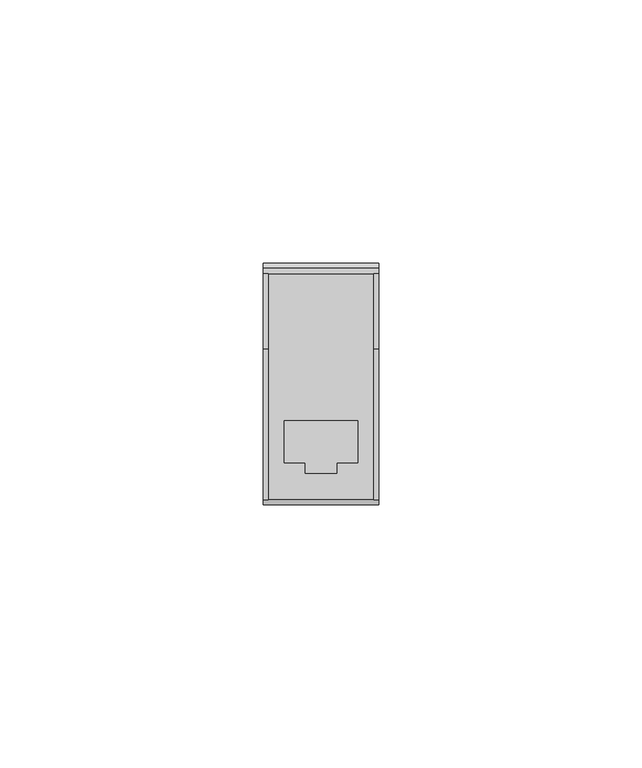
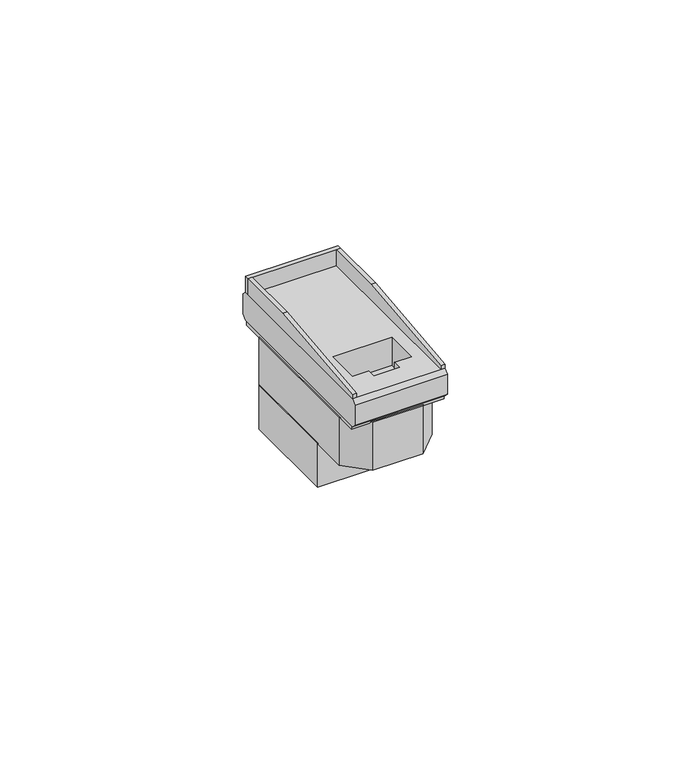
"""IFC4 building model written with IfcOpenShell, lengths in millimetres: proxy geometry, L4258-11 LI Presa RJ : L4258-11 LI Presa RJ."""

from ifc_helpers import new_model, si_unit, frame, origin, origin_with_axes, place, context, project, spatial, polyline, outline, extrude, faceted_brep, source, transform, mapped, element, save


def electrical_fixtures_3b8cf12c(model_context):
    return source(origin(), model_context, "Body", "SolidModel", [
        extrude(outline(polyline([(-22.0, 8.979899), (6.7343417, 12.0), (21.0, 12.0), (21.0, 7.979899), (-22.0, 7.979899), (-22.0, 8.979899)])), frame((10.0, 0.0, 0.0), z_axis=(1.0, 0.0, 0.0), x_axis=(0.0, 1.0, 0.0)), (0.0, 0.0, 1.0), 1.0),
        extrude(outline(polyline([(-22.0, 8.979899), (6.7343417, 12.0), (21.0, 12.0), (21.0, 7.979899), (-22.0, 7.979899), (-22.0, 8.979899)])), frame((-11.0, 0.0, 0.0), z_axis=(1.0, 0.0, 0.0), x_axis=(0.0, 1.0, 0.0)), (0.0, 0.0, 1.0), 1.0),
        extrude(outline(polyline([(-11.0, 22.0), (11.0, 22.0), (11.0, 21.0), (-11.0, 21.0), (-11.0, 22.0)])), frame((0.0, 0.0, 7.979899), z_axis=(0.0, 0.0, 1.0), x_axis=(1.0, 0.0, 0.0)), (0.0, 0.0, 1.0), 4.020101),
        faceted_brep([(11.0, -22.0, 1.0), (11.0, 22.0, 1.0), (11.0, 22.9899495, 1.9899495), (11.0, 22.9899495, 6.9899495), (11.0, 22.0, 7.979899), (11.0, -22.0, 7.979899), (11.0, -22.9899495, 6.9899495), (11.0, -22.9899495, 1.9899495), (-11.0, -22.0, 1.0), (-11.0, -22.9899495, 1.9899495), (-11.0, -22.9899495, 6.9899495), (-11.0, -22.0, 7.979899), (-11.0, 22.0, 7.979899), (-11.0, 22.9899495, 6.9899495), (-11.0, 22.9899495, 1.9899495), (-11.0, 22.0, 1.0), (7.0, -6.9963278, 1.0), (-7.0, -6.9963278, 1.0), (-7.0, -14.9963278, 1.0), (-3.0, -14.9963278, 1.0), (-3.0, -16.9963278, 1.0), (3.0, -16.9963278, 1.0), (3.0, -14.9963278, 1.0), (7.0, -14.9963278, 1.0), (-7.0, -6.9963278, 7.979899), (7.0, -6.9963278, 7.979899), (7.0, -14.9963278, 7.979899), (3.0, -14.9963278, 7.979899), (3.0, -16.9963278, 7.979899), (-3.0, -16.9963278, 7.979899), (-3.0, -14.9963278, 7.979899), (-7.0, -14.9963278, 7.979899)], [[[0, 1, 2, 3, 4, 5, 6, 7]], [[8, 9, 10, 11, 12, 13, 14, 15]], [[1, 0, 8, 15], [16, 17, 18, 19, 20, 21, 22, 23]], [[6, 5, 11, 10]], [[7, 6, 10, 9]], [[0, 7, 9, 8]], [[2, 1, 15, 14]], [[3, 2, 14, 13]], [[4, 3, 13, 12]], [[5, 4, 12, 11], [24, 25, 26, 27, 28, 29, 30, 31]], [[24, 17, 16, 25]], [[17, 24, 31, 18]], [[18, 31, 30, 19]], [[19, 30, 29, 20]], [[20, 29, 28, 21]], [[21, 28, 27, 22]], [[22, 27, 26, 23]], [[25, 16, 23, 26]]]),
        extrude(outline(polyline([(-11.0, -7.5), (-11.0, 16.5), (-9.0, 18.5), (9.0, 18.5), (11.0, 16.5), (11.0, -7.5), (-11.0, -7.5)])), frame((0.0, 0.0, -23.0), z_axis=(0.0, 0.0, 1.0), x_axis=(1.0, 0.0, 0.0)), (0.0, 0.0, 1.0), 11.0),
        extrude(outline(polyline([(11.0, -16.5), (6.0, -21.5), (-6.0, -21.5), (-11.0, -16.5), (-11.0, 16.5), (-6.0, 21.5), (6.0, 21.5), (11.0, 16.5), (11.0, -16.5)])), frame((0.0, 0.0, -12.0), z_axis=(0.0, 0.0, 1.0), x_axis=(1.0, 0.0, 0.0)), (0.0, 0.0, 1.0), 12.0),
        extrude(outline(polyline([(11.0, -21.5), (-11.0, -21.5), (-11.0, 21.5), (11.0, 21.5), (11.0, -21.5)])), origin_with_axes(), (0.0, 0.0, 1.0), 1.0),
    ])


if __name__ == "__main__":
    model = new_model("IFC4")
    model_context = context("Model", 3, world=origin())
    ifc_project = project(units=[si_unit("LENGTHUNIT", "METRE", prefix="MILLI")], contexts=[model_context])
    site = spatial("IfcSite", under=ifc_project)
    building = spatial("IfcBuilding", under=site)
    placement = place(None, origin())
    electrical_fixtures_shape = electrical_fixtures_3b8cf12c(model_context)
    element("IfcBuildingElementProxy", 1, Name="L4258-11 LI Presa RJ : L4258-11 LI Presa RJ", ObjectType="L4258-11 LI Presa RJ : L4258-11 LI Presa RJ", at=placement, inside=building, context=model_context, shape_type="MappedRepresentation", body=[
        mapped(electrical_fixtures_shape, transform((0.0, 0.0, 0.0), x_axis=(1.0, 0.0, 0.0), y_axis=(0.0, 1.0, 0.0), z_axis=(0.0, 0.0, 1.0))),
    ])
    save(model, "model.ifc")
